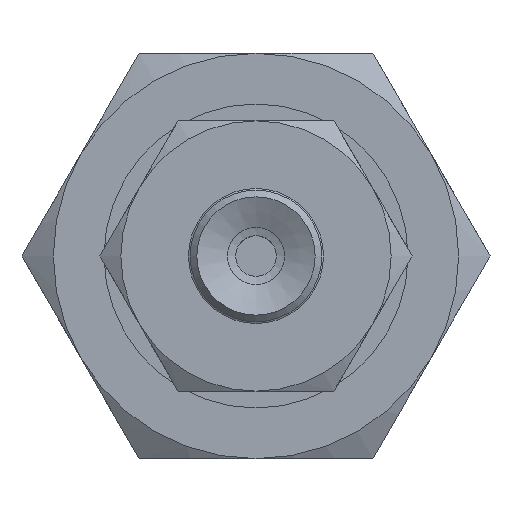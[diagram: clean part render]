
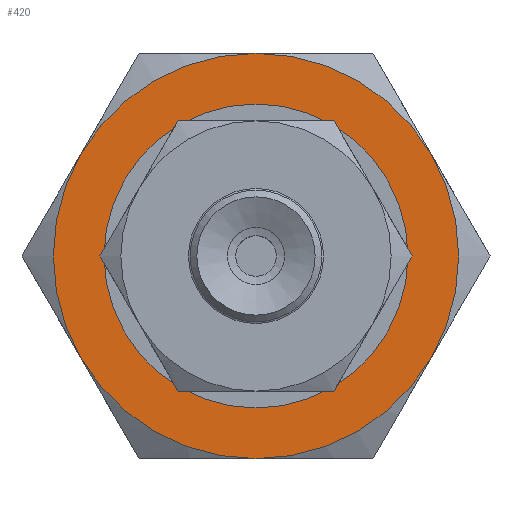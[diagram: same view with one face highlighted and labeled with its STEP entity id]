
A CAD part, front view. The second image highlights one B-rep face of the part: STEP entity #420.
In plain terms, the highlighted planar face has unit normal (0, -1, 0) as drawn and (-1, 0, 0) by its records, which use the part's own axes.
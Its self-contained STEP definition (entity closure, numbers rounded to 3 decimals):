
#420=ADVANCED_FACE('',(#564,#565),#566,.F.);
#564=FACE_BOUND('',#843,.T.);
#565=FACE_OUTER_BOUND('',#844,.T.);
#566=PLANE('',#845);
#843=EDGE_LOOP('',(#1255));
#844=EDGE_LOOP('',(#1256,#1257,#1258,#1259,#1260,#1261));
#845=AXIS2_PLACEMENT_3D('',#1262,#1263,#1264);
#1255=ORIENTED_EDGE('',*,*,#1918,.T.);
#1256=ORIENTED_EDGE('',*,*,#1896,.F.);
#1257=ORIENTED_EDGE('',*,*,#1908,.F.);
#1258=ORIENTED_EDGE('',*,*,#1905,.F.);
#1259=ORIENTED_EDGE('',*,*,#1919,.F.);
#1260=ORIENTED_EDGE('',*,*,#1920,.F.);
#1261=ORIENTED_EDGE('',*,*,#1887,.F.);
#1262=CARTESIAN_POINT('',(0.,0.0,0.0));
#1263=DIRECTION('',(1.0,0.0,0.0));
#1264=DIRECTION('',(0.0,1.0,0.0));
#1887=EDGE_CURVE('',#2114,#2115,#2116,.T.);
#1896=EDGE_CURVE('',#2129,#2114,#2132,.T.);
#1905=EDGE_CURVE('',#2146,#2147,#2148,.T.);
#1908=EDGE_CURVE('',#2147,#2129,#2152,.T.);
#1918=EDGE_CURVE('',#2168,#2168,#2169,.T.);
#1919=EDGE_CURVE('',#2170,#2146,#2171,.T.);
#1920=EDGE_CURVE('',#2115,#2170,#2172,.T.);
#2114=VERTEX_POINT('',#2490);
#2115=VERTEX_POINT('',#2491);
#2116=CIRCLE('',#2492,6.0);
#2129=VERTEX_POINT('',#2547);
#2132=CIRCLE('',#2570,6.0);
#2146=VERTEX_POINT('',#2635);
#2147=VERTEX_POINT('',#2636);
#2148=CIRCLE('',#2637,6.0);
#2152=CIRCLE('',#2661,6.0);
#2168=VERTEX_POINT('',#2727);
#2169=CIRCLE('',#2728,4.0);
#2170=VERTEX_POINT('',#2729);
#2171=CIRCLE('',#2730,6.0);
#2172=CIRCLE('',#2731,6.0);
#2490=CARTESIAN_POINT('',(0.,5.196,3.0));
#2491=CARTESIAN_POINT('',(0.,0.0,6.0));
#2492=AXIS2_PLACEMENT_3D('',#3250,#3251,#3252);
#2547=CARTESIAN_POINT('',(0.,5.196,-3.0));
#2570=AXIS2_PLACEMENT_3D('',#3255,#3256,#3257);
#2635=CARTESIAN_POINT('',(0.,-5.196,-3.0));
#2636=CARTESIAN_POINT('',(0.,0.0,-6.0));
#2637=AXIS2_PLACEMENT_3D('',#3265,#3266,#3267);
#2661=AXIS2_PLACEMENT_3D('',#3268,#3269,#3270);
#2727=CARTESIAN_POINT('',(0.,0.0,-4.0));
#2728=AXIS2_PLACEMENT_3D('',#3283,#3284,#3285);
#2729=CARTESIAN_POINT('',(0.,-5.196,3.0));
#2730=AXIS2_PLACEMENT_3D('',#3286,#3287,#3288);
#2731=AXIS2_PLACEMENT_3D('',#3289,#3290,#3291);
#3250=CARTESIAN_POINT('',(0.,0.0,0.0));
#3251=DIRECTION('',(1.0,0.0,0.0));
#3252=DIRECTION('',(0.0,0.0,-1.0));
#3255=CARTESIAN_POINT('',(0.,0.0,0.0));
#3256=DIRECTION('',(1.0,0.0,0.0));
#3257=DIRECTION('',(0.0,0.0,-1.0));
#3265=CARTESIAN_POINT('',(0.,0.0,0.0));
#3266=DIRECTION('',(1.0,0.0,0.0));
#3267=DIRECTION('',(0.0,0.0,-1.0));
#3268=CARTESIAN_POINT('',(0.,0.0,0.0));
#3269=DIRECTION('',(1.0,0.0,0.0));
#3270=DIRECTION('',(0.0,0.0,-1.0));
#3283=CARTESIAN_POINT('',(0.,0.0,0.0));
#3284=DIRECTION('',(1.0,0.0,0.0));
#3285=DIRECTION('',(0.0,0.0,-1.0));
#3286=CARTESIAN_POINT('',(0.,0.0,0.0));
#3287=DIRECTION('',(1.0,0.0,0.0));
#3288=DIRECTION('',(0.0,0.0,-1.0));
#3289=CARTESIAN_POINT('',(0.,0.0,0.0));
#3290=DIRECTION('',(1.0,0.0,0.0));
#3291=DIRECTION('',(0.0,0.0,-1.0));
